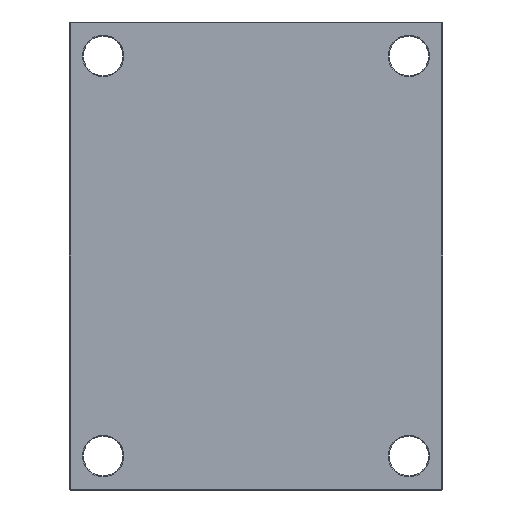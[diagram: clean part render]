
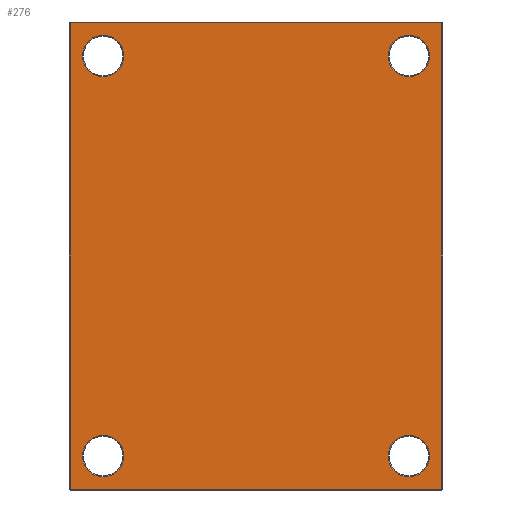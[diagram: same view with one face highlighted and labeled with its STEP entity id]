
A CAD part, front view. The second image highlights one B-rep face of the part: STEP entity #276.
In plain terms, the highlighted planar face has unit normal (0, -1, 0).
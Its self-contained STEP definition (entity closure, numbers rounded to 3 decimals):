
#39 = EDGE_CURVE ( 'NONE', #1965, #1336, #772, .T. ) ;
#69 = DIRECTION ( 'NONE',  ( 0., 0., 1. ) ) ;
#71 = CARTESIAN_POINT ( 'NONE',  ( 197., 0., 247. ) ) ;
#77 = ORIENTED_EDGE ( 'NONE', *, *, #433, .T. ) ;
#81 = CIRCLE ( 'NONE', #1037, 22. ) ;
#113 = EDGE_CURVE ( 'NONE', #123, #1807, #630, .T. ) ;
#123 = VERTEX_POINT ( 'NONE', #1619 ) ;
#180 = EDGE_CURVE ( 'NONE', #1807, #774, #585, .T. ) ;
#206 = EDGE_CURVE ( 'NONE', #1718, #891, #842, .T. ) ;
#219 = DIRECTION ( 'NONE',  ( 0., 1., 0. ) ) ;
#228 = CARTESIAN_POINT ( 'NONE',  ( -162., 0., 212. ) ) ;
#274 = FACE_OUTER_BOUND ( 'NONE', #1226, .T. ) ;
#276 = ADVANCED_FACE ( 'NONE', ( #1181, #1613, #1662, #814, #274 ), #1285, .F. ) ;
#312 = VECTOR ( 'NONE', #2131, 1000. ) ;
#326 = ORIENTED_EDGE ( 'NONE', *, *, #1073, .T. ) ;
#383 = VERTEX_POINT ( 'NONE', #1681 ) ;
#433 = EDGE_CURVE ( 'NONE', #383, #2038, #667, .T. ) ;
#443 = ORIENTED_EDGE ( 'NONE', *, *, #206, .T. ) ;
#468 = DIRECTION ( 'NONE',  ( 0., 1., 0. ) ) ;
#480 = DIRECTION ( 'NONE',  ( 0., 0., 1. ) ) ;
#487 = CIRCLE ( 'NONE', #1722, 22. ) ;
#533 = DIRECTION ( 'NONE',  ( 0., 1., 0. ) ) ;
#544 = CARTESIAN_POINT ( 'NONE',  ( -162., 0., -212. ) ) ;
#547 = CARTESIAN_POINT ( 'NONE',  ( 0., 0., 0. ) ) ;
#553 = DIRECTION ( 'NONE',  ( 0., 1., 0. ) ) ;
#563 = DIRECTION ( 'NONE',  ( 0., 0., 1. ) ) ;
#585 = LINE ( 'NONE', #744, #1693 ) ;
#595 = DIRECTION ( 'NONE',  ( 0., 0., 1. ) ) ;
#630 = LINE ( 'NONE', #1624, #997 ) ;
#667 = CIRCLE ( 'NONE', #1946, 22. ) ;
#729 = EDGE_LOOP ( 'NONE', ( #443, #1575 ) ) ;
#731 = CARTESIAN_POINT ( 'NONE',  ( 162., 0., 212. ) ) ;
#744 = CARTESIAN_POINT ( 'NONE',  ( 0., 0., -247. ) ) ;
#750 = EDGE_LOOP ( 'NONE', ( #1256, #800 ) ) ;
#772 = CIRCLE ( 'NONE', #1363, 22. ) ;
#774 = VERTEX_POINT ( 'NONE', #1466 ) ;
#776 = VERTEX_POINT ( 'NONE', #1448 ) ;
#791 = DIRECTION ( 'NONE',  ( 0., 1., 0. ) ) ;
#792 = AXIS2_PLACEMENT_3D ( 'NONE', #1966, #1970, #1947 ) ;
#800 = ORIENTED_EDGE ( 'NONE', *, *, #1131, .T. ) ;
#807 = DIRECTION ( 'NONE',  ( 0., 0., 1. ) ) ;
#814 = FACE_BOUND ( 'NONE', #750, .T. ) ;
#842 = CIRCLE ( 'NONE', #1446, 22. ) ;
#879 = LINE ( 'NONE', #1565, #1683 ) ;
#891 = VERTEX_POINT ( 'NONE', #1395 ) ;
#931 = EDGE_LOOP ( 'NONE', ( #77, #2062 ) ) ;
#935 = AXIS2_PLACEMENT_3D ( 'NONE', #2141, #1845, #2162 ) ;
#947 = EDGE_CURVE ( 'NONE', #2038, #383, #1761, .T. ) ;
#997 = VECTOR ( 'NONE', #1609, 1000. ) ;
#1000 = VERTEX_POINT ( 'NONE', #71 ) ;
#1037 = AXIS2_PLACEMENT_3D ( 'NONE', #1873, #219, #480 ) ;
#1039 = AXIS2_PLACEMENT_3D ( 'NONE', #228, #468, #1754 ) ;
#1041 = CIRCLE ( 'NONE', #1039, 22. ) ;
#1073 = EDGE_CURVE ( 'NONE', #1336, #1965, #1929, .T. ) ;
#1105 = EDGE_CURVE ( 'NONE', #891, #1718, #81, .T. ) ;
#1123 = DIRECTION ( 'NONE',  ( 0., 1., 0. ) ) ;
#1130 = CARTESIAN_POINT ( 'NONE',  ( 162., 0., 190. ) ) ;
#1131 = EDGE_CURVE ( 'NONE', #1961, #776, #1041, .T. ) ;
#1181 = FACE_BOUND ( 'NONE', #931, .T. ) ;
#1199 = EDGE_CURVE ( 'NONE', #774, #1000, #879, .T. ) ;
#1226 = EDGE_LOOP ( 'NONE', ( #1463, #1713, #2119, #1938 ) ) ;
#1245 = EDGE_CURVE ( 'NONE', #1000, #123, #1632, .T. ) ;
#1252 = CARTESIAN_POINT ( 'NONE',  ( 162., 0., -212. ) ) ;
#1256 = ORIENTED_EDGE ( 'NONE', *, *, #1623, .T. ) ;
#1261 = DIRECTION ( 'NONE',  ( 0., 1., 0. ) ) ;
#1284 = DIRECTION ( 'NONE',  ( 0., 0., 1. ) ) ;
#1285 = PLANE ( 'NONE',  #1852 ) ;
#1336 = VERTEX_POINT ( 'NONE', #1573 ) ;
#1362 = CARTESIAN_POINT ( 'NONE',  ( 0., 0., 247. ) ) ;
#1363 = AXIS2_PLACEMENT_3D ( 'NONE', #1252, #1261, #1284 ) ;
#1395 = CARTESIAN_POINT ( 'NONE',  ( 162., 0., 234. ) ) ;
#1446 = AXIS2_PLACEMENT_3D ( 'NONE', #731, #791, #807 ) ;
#1448 = CARTESIAN_POINT ( 'NONE',  ( -162., 0., 190. ) ) ;
#1463 = ORIENTED_EDGE ( 'NONE', *, *, #1199, .T. ) ;
#1466 = CARTESIAN_POINT ( 'NONE',  ( 197., 0., -247. ) ) ;
#1565 = CARTESIAN_POINT ( 'NONE',  ( 197., 0., 0. ) ) ;
#1573 = CARTESIAN_POINT ( 'NONE',  ( 162., 0., -190. ) ) ;
#1575 = ORIENTED_EDGE ( 'NONE', *, *, #1105, .T. ) ;
#1609 = DIRECTION ( 'NONE',  ( 0., 0., -1. ) ) ;
#1613 = FACE_BOUND ( 'NONE', #2042, .T. ) ;
#1619 = CARTESIAN_POINT ( 'NONE',  ( -197., 0., 247. ) ) ;
#1623 = EDGE_CURVE ( 'NONE', #776, #1961, #487, .T. ) ;
#1624 = CARTESIAN_POINT ( 'NONE',  ( -197., 0., 0. ) ) ;
#1632 = LINE ( 'NONE', #1362, #312 ) ;
#1662 = FACE_BOUND ( 'NONE', #729, .T. ) ;
#1681 = CARTESIAN_POINT ( 'NONE',  ( -162., 0., -234. ) ) ;
#1683 = VECTOR ( 'NONE', #2139, 1000. ) ;
#1693 = VECTOR ( 'NONE', #2057, 1000. ) ;
#1713 = ORIENTED_EDGE ( 'NONE', *, *, #1245, .T. ) ;
#1718 = VERTEX_POINT ( 'NONE', #1130 ) ;
#1722 = AXIS2_PLACEMENT_3D ( 'NONE', #2081, #1123, #69 ) ;
#1754 = DIRECTION ( 'NONE',  ( 0., 0., 1. ) ) ;
#1761 = CIRCLE ( 'NONE', #792, 22. ) ;
#1797 = CARTESIAN_POINT ( 'NONE',  ( 162., 0., -234. ) ) ;
#1807 = VERTEX_POINT ( 'NONE', #2101 ) ;
#1845 = DIRECTION ( 'NONE',  ( 0., 1., 0. ) ) ;
#1852 = AXIS2_PLACEMENT_3D ( 'NONE', #547, #533, #595 ) ;
#1873 = CARTESIAN_POINT ( 'NONE',  ( 162., 0., 212. ) ) ;
#1929 = CIRCLE ( 'NONE', #935, 22. ) ;
#1938 = ORIENTED_EDGE ( 'NONE', *, *, #180, .T. ) ;
#1946 = AXIS2_PLACEMENT_3D ( 'NONE', #544, #553, #563 ) ;
#1947 = DIRECTION ( 'NONE',  ( 0., 0., 1. ) ) ;
#1956 = CARTESIAN_POINT ( 'NONE',  ( -162., 0., -190. ) ) ;
#1961 = VERTEX_POINT ( 'NONE', #2113 ) ;
#1965 = VERTEX_POINT ( 'NONE', #1797 ) ;
#1966 = CARTESIAN_POINT ( 'NONE',  ( -162., 0., -212. ) ) ;
#1970 = DIRECTION ( 'NONE',  ( 0., 1., 0. ) ) ;
#1990 = ORIENTED_EDGE ( 'NONE', *, *, #39, .T. ) ;
#2038 = VERTEX_POINT ( 'NONE', #1956 ) ;
#2042 = EDGE_LOOP ( 'NONE', ( #1990, #326 ) ) ;
#2057 = DIRECTION ( 'NONE',  ( 1., 0., 0. ) ) ;
#2062 = ORIENTED_EDGE ( 'NONE', *, *, #947, .T. ) ;
#2081 = CARTESIAN_POINT ( 'NONE',  ( -162., 0., 212. ) ) ;
#2101 = CARTESIAN_POINT ( 'NONE',  ( -197., 0., -247. ) ) ;
#2113 = CARTESIAN_POINT ( 'NONE',  ( -162., 0., 234. ) ) ;
#2119 = ORIENTED_EDGE ( 'NONE', *, *, #113, .T. ) ;
#2131 = DIRECTION ( 'NONE',  ( -1., 0., 0. ) ) ;
#2139 = DIRECTION ( 'NONE',  ( 0., 0., 1. ) ) ;
#2141 = CARTESIAN_POINT ( 'NONE',  ( 162., 0., -212. ) ) ;
#2162 = DIRECTION ( 'NONE',  ( 0., 0., 1. ) ) ;
